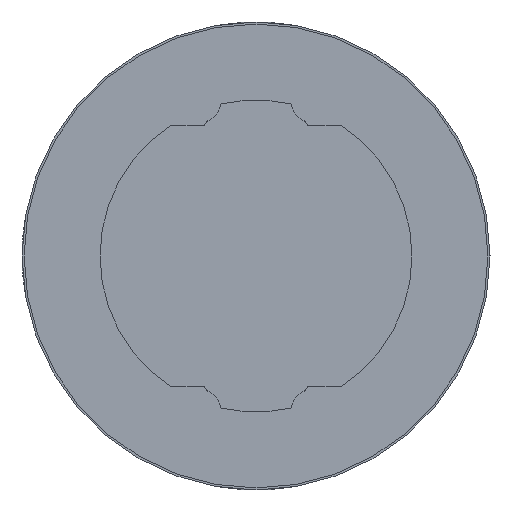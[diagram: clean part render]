
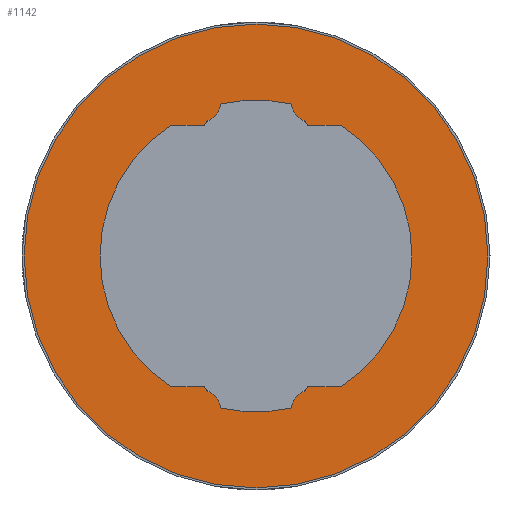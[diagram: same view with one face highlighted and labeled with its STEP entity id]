
A CAD part, left-side view. The second image highlights one B-rep face of the part: STEP entity #1142.
In plain terms, the highlighted planar face has unit normal (-1, 0, 0).
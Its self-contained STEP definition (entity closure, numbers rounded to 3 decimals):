
#46=PLANE('',#1265);
#101=LINE('',#1872,#189);
#102=LINE('',#1876,#190);
#103=LINE('',#1880,#191);
#104=LINE('',#1884,#192);
#105=LINE('',#1896,#193);
#106=LINE('',#1900,#194);
#107=LINE('',#1904,#195);
#108=LINE('',#1908,#196);
#189=VECTOR('',#1518,1000.);
#190=VECTOR('',#1521,1000.);
#191=VECTOR('',#1524,1000.);
#192=VECTOR('',#1527,1000.);
#193=VECTOR('',#1538,1000.);
#194=VECTOR('',#1541,1000.);
#195=VECTOR('',#1544,1000.);
#196=VECTOR('',#1547,1000.);
#381=ORIENTED_EDGE('',*,*,#641,.F.);
#382=ORIENTED_EDGE('',*,*,#642,.F.);
#383=ORIENTED_EDGE('',*,*,#643,.T.);
#384=ORIENTED_EDGE('',*,*,#644,.F.);
#385=ORIENTED_EDGE('',*,*,#645,.T.);
#386=ORIENTED_EDGE('',*,*,#646,.F.);
#387=ORIENTED_EDGE('',*,*,#647,.F.);
#388=ORIENTED_EDGE('',*,*,#648,.T.);
#389=ORIENTED_EDGE('',*,*,#649,.F.);
#390=ORIENTED_EDGE('',*,*,#650,.F.);
#391=ORIENTED_EDGE('',*,*,#651,.F.);
#392=ORIENTED_EDGE('',*,*,#652,.T.);
#393=ORIENTED_EDGE('',*,*,#653,.F.);
#394=ORIENTED_EDGE('',*,*,#654,.F.);
#395=ORIENTED_EDGE('',*,*,#655,.T.);
#396=ORIENTED_EDGE('',*,*,#656,.F.);
#397=ORIENTED_EDGE('',*,*,#657,.T.);
#398=ORIENTED_EDGE('',*,*,#658,.F.);
#399=ORIENTED_EDGE('',*,*,#659,.F.);
#400=ORIENTED_EDGE('',*,*,#660,.T.);
#401=ORIENTED_EDGE('',*,*,#661,.F.);
#402=ORIENTED_EDGE('',*,*,#662,.F.);
#403=ORIENTED_EDGE('',*,*,#663,.F.);
#404=ORIENTED_EDGE('',*,*,#664,.T.);
#405=ORIENTED_EDGE('',*,*,#665,.F.);
#641=EDGE_CURVE('',#783,#783,#881,.T.);
#642=EDGE_CURVE('',#784,#785,#882,.F.);
#643=EDGE_CURVE('',#784,#786,#883,.F.);
#644=EDGE_CURVE('',#787,#786,#884,.F.);
#645=EDGE_CURVE('',#787,#788,#885,.F.);
#646=EDGE_CURVE('',#789,#788,#886,.F.);
#647=EDGE_CURVE('',#790,#789,#101,.T.);
#648=EDGE_CURVE('',#790,#791,#887,.F.);
#649=EDGE_CURVE('',#792,#791,#102,.T.);
#650=EDGE_CURVE('',#793,#792,#888,.F.);
#651=EDGE_CURVE('',#794,#793,#103,.T.);
#652=EDGE_CURVE('',#794,#795,#889,.F.);
#653=EDGE_CURVE('',#796,#795,#104,.T.);
#654=EDGE_CURVE('',#797,#796,#890,.F.);
#655=EDGE_CURVE('',#797,#798,#891,.F.);
#656=EDGE_CURVE('',#799,#798,#892,.F.);
#657=EDGE_CURVE('',#799,#800,#893,.F.);
#658=EDGE_CURVE('',#801,#800,#894,.F.);
#659=EDGE_CURVE('',#802,#801,#105,.T.);
#660=EDGE_CURVE('',#802,#803,#895,.F.);
#661=EDGE_CURVE('',#804,#803,#106,.T.);
#662=EDGE_CURVE('',#805,#804,#896,.F.);
#663=EDGE_CURVE('',#806,#805,#107,.T.);
#664=EDGE_CURVE('',#806,#807,#897,.F.);
#665=EDGE_CURVE('',#785,#807,#108,.T.);
#783=VERTEX_POINT('',#1860);
#784=VERTEX_POINT('',#1862);
#785=VERTEX_POINT('',#1863);
#786=VERTEX_POINT('',#1865);
#787=VERTEX_POINT('',#1867);
#788=VERTEX_POINT('',#1869);
#789=VERTEX_POINT('',#1871);
#790=VERTEX_POINT('',#1873);
#791=VERTEX_POINT('',#1875);
#792=VERTEX_POINT('',#1877);
#793=VERTEX_POINT('',#1879);
#794=VERTEX_POINT('',#1881);
#795=VERTEX_POINT('',#1883);
#796=VERTEX_POINT('',#1885);
#797=VERTEX_POINT('',#1887);
#798=VERTEX_POINT('',#1889);
#799=VERTEX_POINT('',#1891);
#800=VERTEX_POINT('',#1893);
#801=VERTEX_POINT('',#1895);
#802=VERTEX_POINT('',#1897);
#803=VERTEX_POINT('',#1899);
#804=VERTEX_POINT('',#1901);
#805=VERTEX_POINT('',#1903);
#806=VERTEX_POINT('',#1905);
#807=VERTEX_POINT('',#1907);
#881=CIRCLE('',#1266,22.3);
#882=CIRCLE('',#1267,0.3);
#883=CIRCLE('',#1268,2.);
#884=CIRCLE('',#1269,15.);
#885=CIRCLE('',#1270,2.);
#886=CIRCLE('',#1271,0.3);
#887=CIRCLE('',#1272,0.3);
#888=CIRCLE('',#1273,15.);
#889=CIRCLE('',#1274,0.3);
#890=CIRCLE('',#1275,0.3);
#891=CIRCLE('',#1276,2.);
#892=CIRCLE('',#1277,15.);
#893=CIRCLE('',#1278,2.);
#894=CIRCLE('',#1279,0.3);
#895=CIRCLE('',#1280,0.3);
#896=CIRCLE('',#1281,15.);
#897=CIRCLE('',#1282,0.3);
#947=EDGE_LOOP('',(#381));
#948=EDGE_LOOP('',(#382,#383,#384,#385,#386,#387,#388,#389,#390,#391,#392,
#393,#394,#395,#396,#397,#398,#399,#400,#401,#402,#403,#404,#405));
#1025=FACE_BOUND('',#947,.T.);
#1026=FACE_BOUND('',#948,.T.);
#1142=ADVANCED_FACE('',(#1025,#1026),#46,.F.);
#1265=AXIS2_PLACEMENT_3D('',#1858,#1504,#1505);
#1266=AXIS2_PLACEMENT_3D('',#1859,#1506,#1507);
#1267=AXIS2_PLACEMENT_3D('',#1861,#1508,#1509);
#1268=AXIS2_PLACEMENT_3D('',#1864,#1510,#1511);
#1269=AXIS2_PLACEMENT_3D('',#1866,#1512,#1513);
#1270=AXIS2_PLACEMENT_3D('',#1868,#1514,#1515);
#1271=AXIS2_PLACEMENT_3D('',#1870,#1516,#1517);
#1272=AXIS2_PLACEMENT_3D('',#1874,#1519,#1520);
#1273=AXIS2_PLACEMENT_3D('',#1878,#1522,#1523);
#1274=AXIS2_PLACEMENT_3D('',#1882,#1525,#1526);
#1275=AXIS2_PLACEMENT_3D('',#1886,#1528,#1529);
#1276=AXIS2_PLACEMENT_3D('',#1888,#1530,#1531);
#1277=AXIS2_PLACEMENT_3D('',#1890,#1532,#1533);
#1278=AXIS2_PLACEMENT_3D('',#1892,#1534,#1535);
#1279=AXIS2_PLACEMENT_3D('',#1894,#1536,#1537);
#1280=AXIS2_PLACEMENT_3D('',#1898,#1539,#1540);
#1281=AXIS2_PLACEMENT_3D('',#1902,#1542,#1543);
#1282=AXIS2_PLACEMENT_3D('',#1906,#1545,#1546);
#1504=DIRECTION('',(1.,0.,0.));
#1505=DIRECTION('',(0.,0.,-1.));
#1506=DIRECTION('',(1.,0.,0.));
#1507=DIRECTION('',(0.,0.,-1.));
#1508=DIRECTION('',(1.,0.,0.));
#1509=DIRECTION('',(0.,0.,-1.));
#1510=DIRECTION('',(1.,0.,0.));
#1511=DIRECTION('',(0.,0.,-1.));
#1512=DIRECTION('',(1.,0.,0.));
#1513=DIRECTION('',(0.,0.,-1.));
#1514=DIRECTION('',(1.,0.,0.));
#1515=DIRECTION('',(0.,0.,-1.));
#1516=DIRECTION('',(1.,0.,0.));
#1517=DIRECTION('',(0.,0.,-1.));
#1518=DIRECTION('',(0.,0.5,0.866));
#1519=DIRECTION('',(1.,0.,0.));
#1520=DIRECTION('',(0.,0.,-1.));
#1521=DIRECTION('',(0.,1.,0.));
#1522=DIRECTION('',(1.,0.,0.));
#1523=DIRECTION('',(0.,0.,-1.));
#1524=DIRECTION('',(0.,-1.,0.));
#1525=DIRECTION('',(1.,0.,0.));
#1526=DIRECTION('',(0.,0.,-1.));
#1527=DIRECTION('',(0.,-0.5,0.866));
#1528=DIRECTION('',(1.,0.,0.));
#1529=DIRECTION('',(0.,0.,-1.));
#1530=DIRECTION('',(1.,0.,0.));
#1531=DIRECTION('',(0.,0.,-1.));
#1532=DIRECTION('',(1.,0.,0.));
#1533=DIRECTION('',(0.,0.,-1.));
#1534=DIRECTION('',(1.,0.,0.));
#1535=DIRECTION('',(0.,0.,-1.));
#1536=DIRECTION('',(1.,0.,0.));
#1537=DIRECTION('',(0.,0.,-1.));
#1538=DIRECTION('',(0.,-0.5,-0.866));
#1539=DIRECTION('',(1.,0.,0.));
#1540=DIRECTION('',(0.,0.,-1.));
#1541=DIRECTION('',(0.,-1.,0.));
#1542=DIRECTION('',(1.,0.,0.));
#1543=DIRECTION('',(0.,0.,-1.));
#1544=DIRECTION('',(0.,1.,0.));
#1545=DIRECTION('',(1.,0.,0.));
#1546=DIRECTION('',(0.,0.,-1.));
#1547=DIRECTION('',(0.,0.5,-0.866));
#1858=CARTESIAN_POINT('',(-37.8,0.,0.));
#1859=CARTESIAN_POINT('',(-37.8,0.,0.));
#1860=CARTESIAN_POINT('',(-37.8,0.,-22.3));
#1861=CARTESIAN_POINT('',(-37.8,4.53,12.719));
#1862=CARTESIAN_POINT('',(-37.8,4.644,12.997));
#1863=CARTESIAN_POINT('',(-37.8,4.79,12.869));
#1864=CARTESIAN_POINT('',(-37.8,5.404,14.847));
#1865=CARTESIAN_POINT('',(-37.8,3.419,14.605));
#1866=CARTESIAN_POINT('',(-37.8,0.,0.));
#1867=CARTESIAN_POINT('',(-37.8,-3.419,14.605));
#1868=CARTESIAN_POINT('',(-37.8,-5.404,14.847));
#1869=CARTESIAN_POINT('',(-37.8,-4.644,12.997));
#1870=CARTESIAN_POINT('',(-37.8,-4.53,12.719));
#1871=CARTESIAN_POINT('',(-37.8,-4.79,12.869));
#1872=CARTESIAN_POINT('',(-37.8,-9.165,5.292));
#1873=CARTESIAN_POINT('',(-37.8,-4.888,12.7));
#1874=CARTESIAN_POINT('',(-37.8,-5.148,12.85));
#1875=CARTESIAN_POINT('',(-37.8,-5.148,12.55));
#1876=CARTESIAN_POINT('',(-37.8,0.,12.55));
#1877=CARTESIAN_POINT('',(-37.8,-8.216,12.55));
#1878=CARTESIAN_POINT('',(-37.8,0.,0.));
#1879=CARTESIAN_POINT('',(-37.8,-8.216,-12.55));
#1880=CARTESIAN_POINT('',(-37.8,0.,-12.55));
#1881=CARTESIAN_POINT('',(-37.8,-5.148,-12.55));
#1882=CARTESIAN_POINT('',(-37.8,-5.148,-12.85));
#1883=CARTESIAN_POINT('',(-37.8,-4.888,-12.7));
#1884=CARTESIAN_POINT('',(-37.8,-9.165,-5.292));
#1885=CARTESIAN_POINT('',(-37.8,-4.79,-12.869));
#1886=CARTESIAN_POINT('',(-37.8,-4.53,-12.719));
#1887=CARTESIAN_POINT('',(-37.8,-4.644,-12.997));
#1888=CARTESIAN_POINT('',(-37.8,-5.404,-14.847));
#1889=CARTESIAN_POINT('',(-37.8,-3.419,-14.605));
#1890=CARTESIAN_POINT('',(-37.8,0.,0.));
#1891=CARTESIAN_POINT('',(-37.8,3.419,-14.605));
#1892=CARTESIAN_POINT('',(-37.8,5.404,-14.847));
#1893=CARTESIAN_POINT('',(-37.8,4.644,-12.997));
#1894=CARTESIAN_POINT('',(-37.8,4.53,-12.719));
#1895=CARTESIAN_POINT('',(-37.8,4.79,-12.869));
#1896=CARTESIAN_POINT('',(-37.8,9.165,-5.292));
#1897=CARTESIAN_POINT('',(-37.8,4.888,-12.7));
#1898=CARTESIAN_POINT('',(-37.8,5.148,-12.85));
#1899=CARTESIAN_POINT('',(-37.8,5.148,-12.55));
#1900=CARTESIAN_POINT('',(-37.8,0.,-12.55));
#1901=CARTESIAN_POINT('',(-37.8,8.216,-12.55));
#1902=CARTESIAN_POINT('',(-37.8,0.,0.));
#1903=CARTESIAN_POINT('',(-37.8,8.216,12.55));
#1904=CARTESIAN_POINT('',(-37.8,0.,12.55));
#1905=CARTESIAN_POINT('',(-37.8,5.148,12.55));
#1906=CARTESIAN_POINT('',(-37.8,5.148,12.85));
#1907=CARTESIAN_POINT('',(-37.8,4.888,12.7));
#1908=CARTESIAN_POINT('',(-37.8,9.165,5.292));
